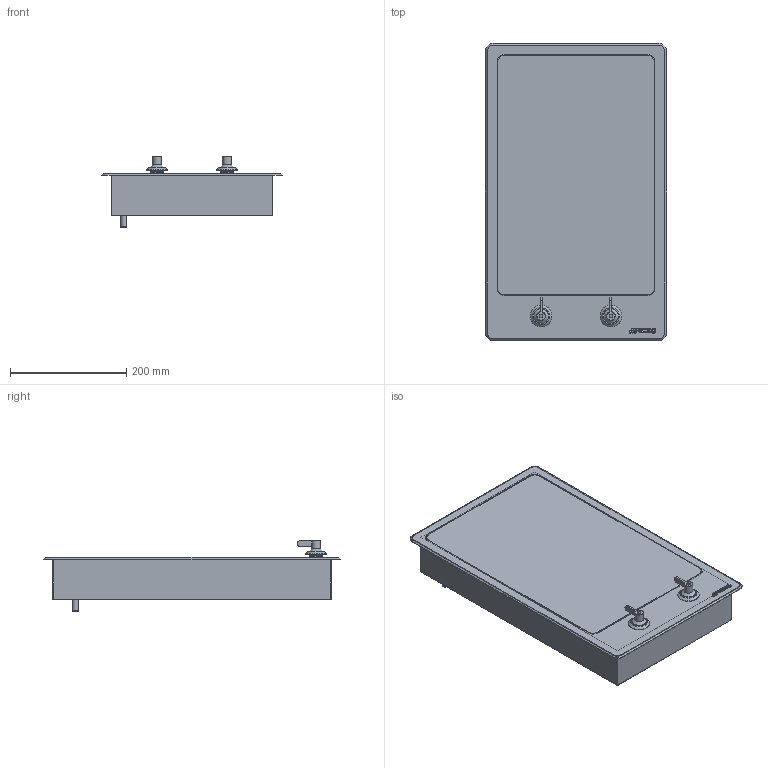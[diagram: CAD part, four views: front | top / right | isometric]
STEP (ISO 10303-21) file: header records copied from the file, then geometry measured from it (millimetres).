
FILE_DESCRIPTION(/* description */ (''),/* implementation_level */ '2;1');
FILE_NAME(/* name */ 'piano pgf32i.stp',/* time_stamp */ '2018-09-28T11:54:29+02:00',/* author */ (''),/* organization */ (''),/* preprocessor_version */ 'ST-DEVELOPER v16',/* originating_system */ 'SIEMENS PLM Software NX 11.0',/* authorisation */ '');
FILE_SCHEMA (('AUTOMOTIVE_DESIGN { 1 0 10303 214 3 1 1 1 }'));
Length unit declared in the file: millimetre
Products named in the file (1): gobb3984800Dr6b8
Bounding box: 311.6 x 511.6 x 121.5 mm (x, y, z)
Volume: 1164125.2 mm3; surface area: 1162205.8 mm2
Topology: 17 solids, 17 shells, 238 faces, 536 edges, 351 vertices
Faces by surface type: plane 129, cylinder 58, cone 22, torus 18, extrusion 11
Full cylindrical faces by diameter (mm): 3.988 x6, 6 x2, 8 x1, 10 x1, 14.996 x2, 17 x2, 20 x2, 22 x2
Entity records: 6858 total; most frequent: CARTESIAN_POINT 1442, DIRECTION 1112, ORIENTED_EDGE 988, EDGE_CURVE 494, AXIS2_PLACEMENT_3D 406, VERTEX_POINT 346, EDGE_LOOP 302, VECTOR 300
